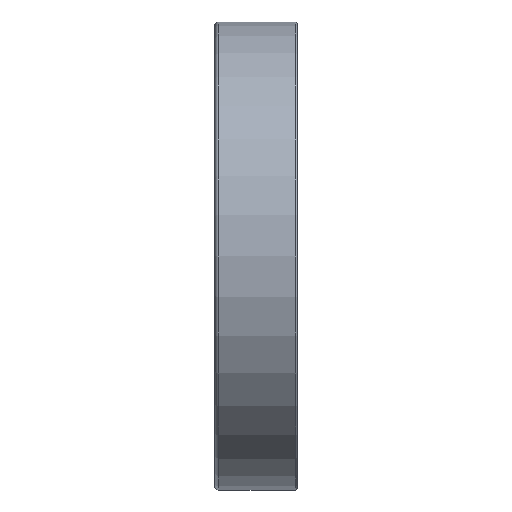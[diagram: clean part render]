
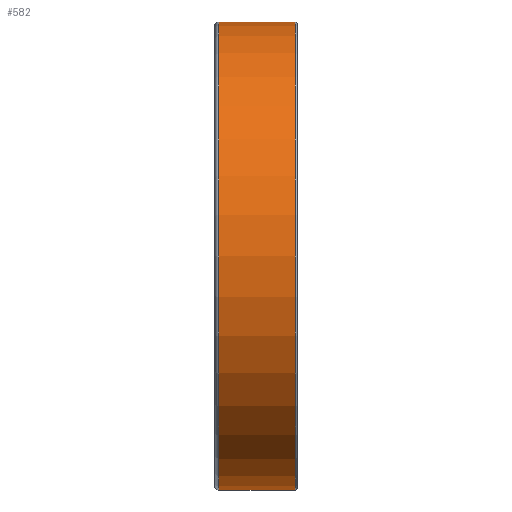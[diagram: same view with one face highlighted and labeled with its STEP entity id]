
A CAD part, front view. The second image highlights one B-rep face of the part: STEP entity #582.
In plain terms, the highlighted cylindrical face has radius 34 mm (diameter 68 mm), a full revolution.
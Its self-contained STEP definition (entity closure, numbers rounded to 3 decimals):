
#173=CYLINDRICAL_SURFACE('',#918,34.);
#281=EDGE_LOOP('',(#401));
#282=EDGE_LOOP('',(#402));
#401=ORIENTED_EDGE('',*,*,#469,.F.);
#402=ORIENTED_EDGE('',*,*,#467,.T.);
#467=EDGE_CURVE('',#841,#841,#487,.T.);
#469=EDGE_CURVE('',#843,#843,#489,.T.);
#487=CIRCLE('',#914,34.);
#489=CIRCLE('',#917,34.);
#582=ADVANCED_FACE('',(#735,#736),#173,.T.);
#735=FACE_BOUND('',#281,.T.);
#736=FACE_BOUND('',#282,.T.);
#841=VERTEX_POINT('',#3538);
#843=VERTEX_POINT('',#3543);
#914=AXIS2_PLACEMENT_3D('',#3537,#1048,#1049);
#917=AXIS2_PLACEMENT_3D('',#3542,#1054,#1055);
#918=AXIS2_PLACEMENT_3D('',#3544,#1056,#1057);
#1048=DIRECTION('',(1.,0.,0.));
#1049=DIRECTION('',(0.,0.,-1.));
#1054=DIRECTION('',(1.,0.,0.));
#1055=DIRECTION('',(0.,0.,-1.));
#1056=DIRECTION('',(1.,0.,0.));
#1057=DIRECTION('',(0.,0.,-1.));
#3537=CARTESIAN_POINT('',(-5.4,0.,0.));
#3538=CARTESIAN_POINT('',(-5.4,0.,-34.));
#3542=CARTESIAN_POINT('',(5.7,0.,0.));
#3543=CARTESIAN_POINT('',(5.7,0.,-34.));
#3544=CARTESIAN_POINT('',(-5.4,0.,0.));
